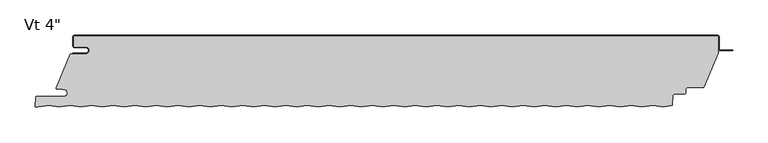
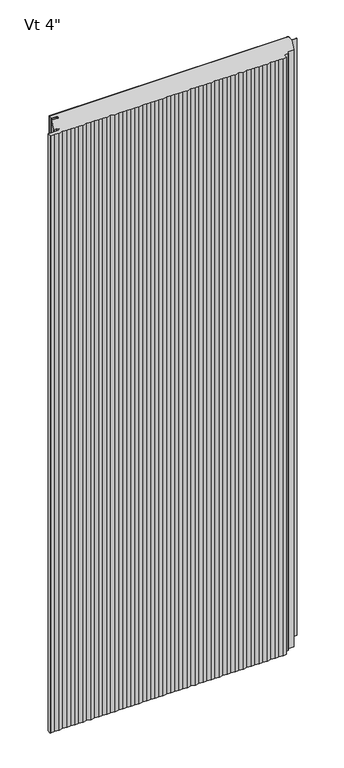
"""IFC4 building model written with IfcOpenShell, lengths in millimetres: plate geometry."""

from ifc_helpers import new_model, si_unit, point, frame_2d, origin, origin_with_axes, place, context, project, spatial, polyline, circle_curve, trimmed, segment, composite_curve, outline, extrude, source, transform, mapped, element, save


def plate_676ee9c5(model_context):
    return source(origin(), model_context, "Body", "SweptSolid", [
        extrude(outline(composite_curve([segment(polyline([(-438.14375, -16.4625), (-454.01875, -16.4625)]), True, "CONTINUOUS"), segment(trimmed(circle_curve(frame_2d((-454.01875, -15.08125)), 1.38125), [point((-454.01875, -16.4625))], [point((-455.4, -15.08125))], False, "CARTESIAN"), True, "CONTINUOUS"), segment(polyline([(-455.4, -15.08125), (-455.4, -2.38125)]), True, "CONTINUOUS"), segment(trimmed(circle_curve(frame_2d((-454.01875, -2.38125)), 1.38125), [point((-455.4, -2.38125))], [point((-454.01875, -1.0))], False, "CARTESIAN"), True, "CONTINUOUS"), segment(polyline([(-454.01875, -1.0), (454.03125, -1.0)]), True, "CONTINUOUS"), segment(trimmed(circle_curve(frame_2d((454.03125, -2.38125)), 1.38125), [point((454.03125, -1.0))], [point((455.4125, -2.38125))], False, "CARTESIAN"), True, "CONTINUOUS"), segment(polyline([(455.4125, -2.38125), (455.4125, -24.9057308), (434.5955434, -73.6125), (412.1540783, -73.6125)]), True, "CONTINUOUS"), segment(trimmed(circle_curve(frame_2d((412.1540783, -76.2)), 2.5875), [point((412.1540783, -73.6125))], [point((409.5701244, -76.0645807))], True, "CARTESIAN"), True, "CONTINUOUS"), segment(polyline([(409.5701244, -76.0645807), (409.2680481, -81.828539)]), True, "CONTINUOUS"), segment(trimmed(circle_curve(frame_2d((407.8886911, -81.75625)), 1.38125), [point((409.2680481, -81.828539))], [point((407.8886911, -83.1375))], False, "CARTESIAN"), True, "CONTINUOUS"), segment(polyline([(407.8886911, -83.1375), (393.7323847, -83.1375)]), True, "CONTINUOUS"), segment(trimmed(circle_curve(frame_2d((393.7323847, -85.725)), 2.5875), [point((393.7323847, -83.1375))], [point((391.1484307, -85.5895807))], True, "CARTESIAN"), True, "CONTINUOUS"), segment(polyline([(391.1484307, -85.5895807), (390.4106485, -99.6673048), (377.6725, -101.7054086), (362.6350675, -99.2994194), (347.3950675, -101.7378194), (332.1550675, -99.2994194), (316.9150675, -101.7378194), (301.6750675, -99.2994194), (286.4350675, -101.7378194), (271.1950675, -99.2994194), (255.9550675, -101.7378194), (240.7150675, -99.2994194), (225.4750675, -101.7378194), (210.2350675, -99.2994194), (194.9950675, -101.7378194), (179.7550675, -99.2994194), (164.5150675, -101.7378194), (149.2750675, -99.2994194), (134.0350675, -101.7378194), (118.7950675, -99.2994194), (103.5550675, -101.7378194), (88.3150675, -99.2994194), (73.0750675, -101.7378194), (57.8350675, -99.2994194), (42.5950675, -101.7378194), (27.3550675, -99.2994194), (12.1150675, -101.7378194), (-3.1249325, -99.2994194), (-18.3649325, -101.7378194), (-33.6049325, -99.2994194), (-48.8449325, -101.7378194), (-64.0849325, -99.2994194), (-79.3249325, -101.7378194), (-94.5649325, -99.2994194), (-109.8049325, -101.7378194), (-125.0449325, -99.2994194), (-140.2849325, -101.7378194), (-155.5249325, -99.2994194), (-170.7649325, -101.7378194), (-186.0049325, -99.2994194), (-201.2449325, -101.7378194), (-216.4849325, -99.2994194), (-231.7249325, -101.7378194), (-246.9649325, -99.2994194), (-262.2049325, -101.7378194), (-277.4449325, -99.2994194), (-292.6849325, -101.7378194), (-307.9249325, -99.2994194), (-323.1649325, -101.7378194), (-338.4049325, -99.2994194), (-353.6449325, -101.7378194), (-368.8849325, -99.2994194), (-384.1249325, -101.7378194), (-399.3649325, -99.2994194), (-414.6049325, -101.7378194), (-429.8449325, -99.2994194), (-445.0849325, -101.7378194), (-460.3249325, -99.2994194), (-475.5649325, -101.7378194), (-490.8049325, -99.2994194), (-506.0449325, -101.7378194), (-509.3672594, -101.2062471), (-508.6769291, -88.033961)]), True, "CONTINUOUS"), segment(trimmed(circle_curve(frame_2d((-507.2975721, -88.10625)), 1.38125), [point((-508.6769291, -88.033961))], [point((-507.2975721, -86.725))], False, "CARTESIAN"), True, "CONTINUOUS"), segment(polyline([(-507.2975721, -86.725), (-469.1142674, -86.725)]), True, "CONTINUOUS"), segment(trimmed(circle_curve(frame_2d((-469.1142674, -81.75625)), 4.96875), [point((-469.1142674, -86.725))], [point((-469.1142674, -76.7875))], True, "CARTESIAN"), True, "CONTINUOUS"), segment(polyline([(-469.1142674, -76.7875), (-470.7017674, -76.99375), (-470.7017674, -76.2), (-480.2125, -76.2), (-480.2125, -74.6157227), (-460.3260922, -26.4), (-438.14375, -26.4)]), True, "CONTINUOUS"), segment(trimmed(circle_curve(frame_2d((-438.14375, -21.43125)), 4.96875), [point((-438.14375, -26.4))], [point((-438.14375, -16.4625))], True, "CARTESIAN"), True, "CONTINUOUS")], self_intersect=False)), origin_with_axes(), (0.0, 0.0, 1.0), 2400.0),
        extrude(outline(composite_curve([segment(polyline([(-456.4, -25.4), (-438.14375, -25.4)]), True, "CONTINUOUS"), segment(trimmed(circle_curve(frame_2d((-438.14375, -21.43125)), 3.96875), [point((-438.14375, -25.4))], [point((-438.14375, -17.4625))], True, "CARTESIAN"), True, "CONTINUOUS"), segment(polyline([(-438.14375, -17.4625), (-454.01875, -17.4625)]), True, "CONTINUOUS"), segment(trimmed(circle_curve(frame_2d((-454.01875, -15.08125)), 2.38125), [point((-454.01875, -17.4625))], [point((-456.4, -15.08125))], False, "CARTESIAN"), True, "CONTINUOUS"), segment(polyline([(-456.4, -15.08125), (-456.4, -2.38125)]), True, "CONTINUOUS"), segment(trimmed(circle_curve(frame_2d((-454.01875, -2.38125)), 2.38125), [point((-456.4, -2.38125))], [point((-454.01875, 0.0))], False, "CARTESIAN"), True, "CONTINUOUS"), segment(polyline([(-454.01875, 0.0), (454.03125, 0.0)]), True, "CONTINUOUS"), segment(trimmed(circle_curve(frame_2d((454.03125, -2.38125)), 2.38125), [point((454.03125, 0.0))], [point((456.4125, -2.38125))], False, "CARTESIAN"), True, "CONTINUOUS"), segment(polyline([(456.4125, -2.38125), (456.4125, -19.446875)]), True, "CONTINUOUS"), segment(trimmed(circle_curve(frame_2d((458.0, -19.446875)), 1.5875), [point((456.4125, -19.446875))], [point((458.0, -21.034375))], True, "CARTESIAN"), True, "CONTINUOUS"), segment(polyline([(458.0, -21.034375), (475.4625, -21.034375), (475.4625, -22.034375), (458.0, -22.034375)]), True, "CONTINUOUS"), segment(trimmed(circle_curve(frame_2d((458.0, -19.446875)), 2.5875), [point((458.0, -22.034375))], [point((455.4125, -19.446875))], False, "CARTESIAN"), True, "CONTINUOUS"), segment(polyline([(455.4125, -19.446875), (455.4125, -2.38125)]), True, "CONTINUOUS"), segment(trimmed(circle_curve(frame_2d((454.03125, -2.38125)), 1.38125), [point((455.4125, -2.38125))], [point((454.03125, -1.0))], True, "CARTESIAN"), True, "CONTINUOUS"), segment(polyline([(454.03125, -1.0), (-454.01875, -1.0)]), True, "CONTINUOUS"), segment(trimmed(circle_curve(frame_2d((-454.01875, -2.38125)), 1.38125), [point((-454.01875, -1.0))], [point((-455.4, -2.38125))], True, "CARTESIAN"), True, "CONTINUOUS"), segment(polyline([(-455.4, -2.38125), (-455.4, -15.08125)]), True, "CONTINUOUS"), segment(trimmed(circle_curve(frame_2d((-454.01875, -15.08125)), 1.38125), [point((-455.4, -15.08125))], [point((-454.01875, -16.4625))], True, "CARTESIAN"), True, "CONTINUOUS"), segment(polyline([(-454.01875, -16.4625), (-438.14375, -16.4625)]), True, "CONTINUOUS"), segment(trimmed(circle_curve(frame_2d((-438.14375, -21.43125)), 4.96875), [point((-438.14375, -16.4625))], [point((-438.14375, -26.4))], False, "CARTESIAN"), True, "CONTINUOUS"), segment(polyline([(-438.14375, -26.4), (-456.4, -26.4), (-456.4, -25.4)]), True, "CONTINUOUS")], self_intersect=False)), origin_with_axes(), (0.0, 0.0, 1.0), 2400.0),
    ])


if __name__ == "__main__":
    model = new_model("IFC4")
    model_context = context("Model", 3, world=origin())
    ifc_project = project(units=[si_unit("LENGTHUNIT", "METRE", prefix="MILLI")], contexts=[model_context])
    site = spatial("IfcSite", under=ifc_project)
    building = spatial("IfcBuilding", under=site)
    placement = place(None, origin())
    plate_shape = plate_676ee9c5(model_context)
    element("IfcPlate", 1, ObjectType="KIP-36-DWHR-R19-CP-Vt-S : Vt 4\"", at=placement, inside=building, context=model_context, shape_type="MappedRepresentation", body=[
        mapped(plate_shape, transform((0.0, 0.0, 0.0), x_axis=(1.0, 0.0, 0.0), y_axis=(0.0, 1.0, 0.0), z_axis=(0.0, 0.0, 1.0))),
    ])
    save(model, "model.ifc")
